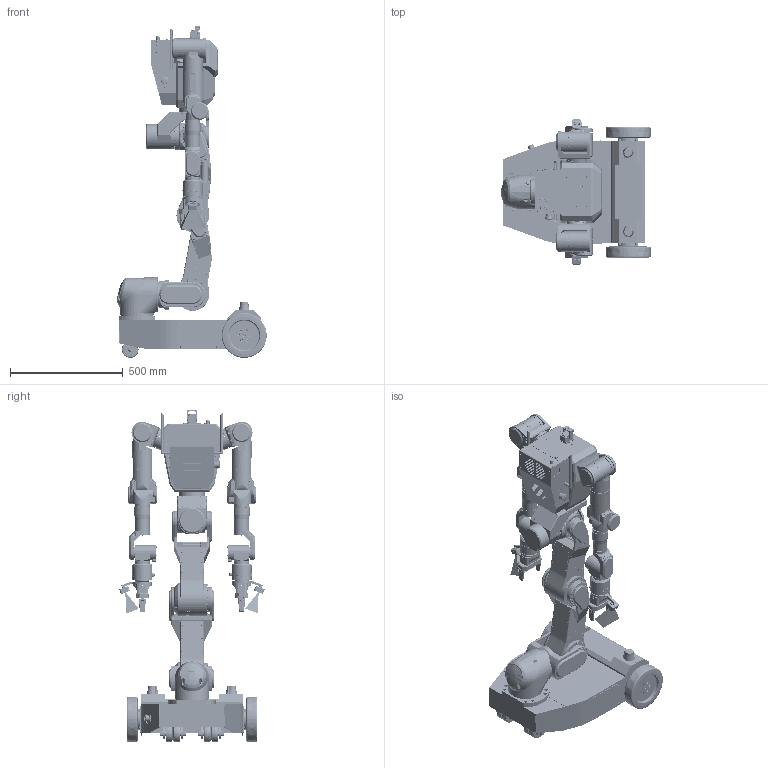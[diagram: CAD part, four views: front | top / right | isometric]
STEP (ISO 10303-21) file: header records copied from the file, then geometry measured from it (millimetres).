
FILE_DESCRIPTION(/* description */ (''),/* implementation_level */ '2;1');
FILE_NAME(/* name */ 'RB-Y1_v1.1_3D_Power Grip_DD_260107.stp',/* time_stamp */ '2026-01-08T16:02:32+09:00',/* author */ ('KiWook.H'),/* organization */ (''),/* preprocessor_version */ 'ST-DEVELOPER v20',/* originating_system */ 'Autodesk Inventor 2025',/* authorisation */ '');
FILE_SCHEMA (('AUTOMOTIVE_DESIGN { 1 0 10303 214 3 1 1 }'));
Products named in the file (22): RB-Y1_v1.1_3D_Power Grip_DD_260107; 000_Base_v1.1; 001_AR_v1.1; 002_AP_v1.1; 003_KN_v1.1; 004_HP_v1.1; 005_HR_v1.1; 006_HY_v1.1; 007_SP_R_v1.1; 008_SR_R_v1.1; 009_SY_R_v1.1; 010_EL_R_v1.1; 011_WY1_R_v1.1; 012_WP_R_v1.1; 014_SP_L_v1.1; 015_SR_L_v1.1; 016_SY_L_v1.1; 017_EL_L_v1.1; 018_WY1_L_v1.1; 019_WP_L_v1.1; 020_FTsensor TF_v1.1; 021_Gripper_Power_v1.1
Assembly tree (23 placements, depth 2):
  RB-Y1_v1.1_3D_Power Grip_DD_260107
    000_Base_v1.1
    001_AR_v1.1
    002_AP_v1.1
    003_KN_v1.1
    004_HP_v1.1
    005_HR_v1.1
    006_HY_v1.1
    007_SP_R_v1.1
    008_SR_R_v1.1
    009_SY_R_v1.1
    010_EL_R_v1.1
    011_WY1_R_v1.1
    012_WP_R_v1.1
    014_SP_L_v1.1
    015_SR_L_v1.1
    016_SY_L_v1.1
    017_EL_L_v1.1
    018_WY1_L_v1.1
    019_WP_L_v1.1
    020_FTsensor TF_v1.1  x2
    021_Gripper_Power_v1.1  x2
Bounding box: 662.62 x 642.81 x 1470 mm (x, y, z)
Volume: 71343176.2 mm3; surface area: 5024492 mm2
Topology: 35 solids, 333 shells, 17529 faces, 44696 edges, 28979 vertices
Faces by surface type: plane 9629, cylinder 4775, cone 1849, torus 807, bspline 406, sphere 63
Full cylindrical faces by diameter (mm): 0.7 x16, 1.03 x16, 1.5 x10, 1.567 x16, 1.6 x4, 1.7 x10, 2 x20, 2.013 x4, 2.05 x12, 2.2 x4, 2.459 x80, 2.5 x35, 2.6 x4, 2.693 x10, 2.9 x2, 3 x202, 3.1 x10, 3.2 x38, 3.242 x17, 3.3 x8, 3.4 x16, 3.8 x4, 3.9 x1, 4 x73, 4.2 x8, 4.5 x22, 4.8 x6, 4.917 x8, 5 x140, 5.1 x4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
Entity records: 607165 total; most frequent: CARTESIAN_POINT 209819, ORIENTED_EDGE 80984, DIRECTION 78593, EDGE_CURVE 40508, AXIS2_PLACEMENT_3D 28541, VERTEX_POINT 26608, LINE 21511, VECTOR 21511
